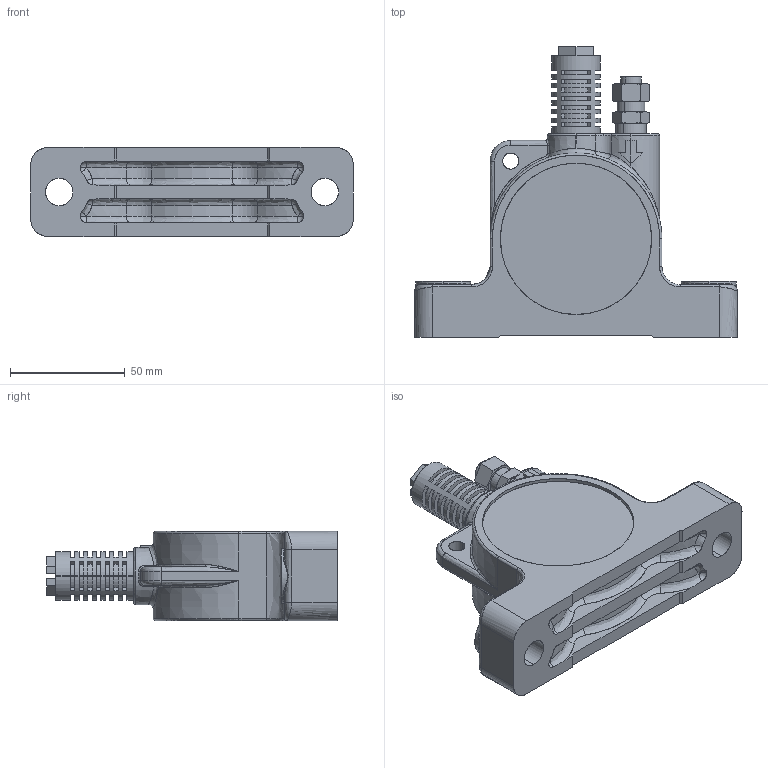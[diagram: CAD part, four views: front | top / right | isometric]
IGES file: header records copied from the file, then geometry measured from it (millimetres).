
Start section: SolidWorks IGES file using analytic representation for surfaces
Global section: file name: V:\WORK\08133\HP 寸法図\ball\UP219S\test_E57000C-000 UP219S_defeature.IGS,15; native system: HSolidWorks 2018; preprocessor: SolidWorks 2018; author: n-udagawa; date: 230208.140016; units: millimetre
Bounding box: 141 x 127 x 39 mm (x, y, z)
Surface area: 42781.5 mm2 (no closed solid volume)
Topology: 0 solids, 0 shells, 347 faces, 5886 edges, 6857 vertices
Faces by surface type: bspline 249, revolution 98
